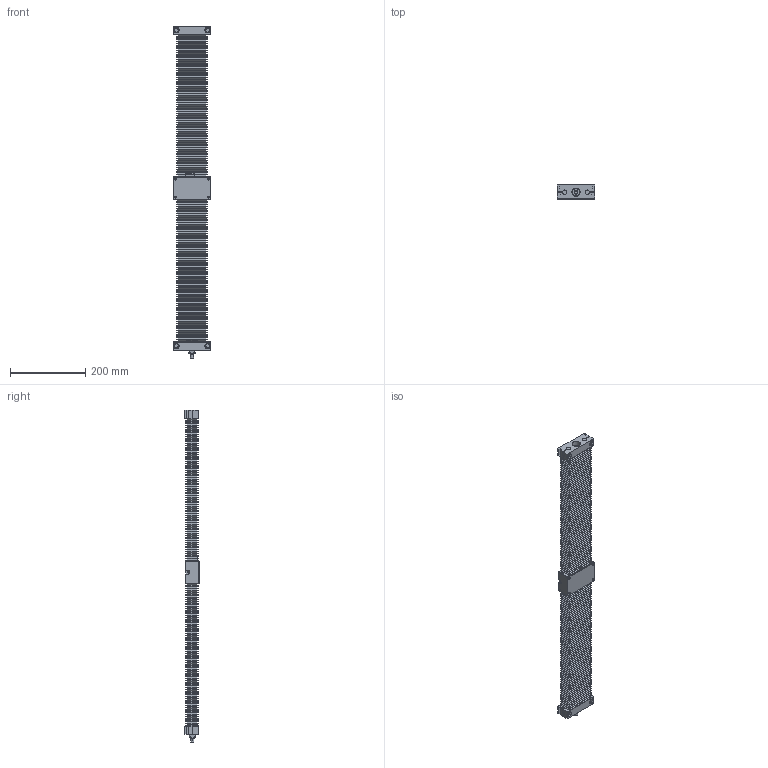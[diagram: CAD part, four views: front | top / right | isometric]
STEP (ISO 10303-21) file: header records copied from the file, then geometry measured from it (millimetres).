
FILE_DESCRIPTION (( 'STEP AP214' ), '1' );
FILE_NAME ('TKC1204B-500H0C-Ä£×é.step', '2025-10-10T09:44:56', ( '' ), ( '' ), 'SwSTEP 2.0', 'SolidWorks 2024', '' );
FILE_SCHEMA (( 'AUTOMOTIVE_DESIGN' ));
Length unit declared in the file: millimetre
Products named in the file (4): TKC1204B-500H0C-模组; TKC12-500-01; TKC12-02; TKC12-500-03
Assembly tree (4 placements, depth 2):
  TKC1204B-500H0C-模组
    TKC12-02
    TKC12-500-01
    TKC12-500-03  x2
Bounding box: 100 x 38 x 884.5 mm (x, y, z)
Volume: 1462026.5 mm3; surface area: 668145.9 mm2
Topology: 14 solids, 14 shells, 2357 faces, 5186 edges, 2905 vertices
Faces by surface type: plane 1813, cylinder 459, cone 46, torus 28, bspline 11
Entity records: 54864 total; most frequent: CARTESIAN_POINT 20314, ORIENTED_EDGE 7148, DIRECTION 6725, EDGE_CURVE 3574, VECTOR 2535, LINE 2535, VERTEX_POINT 2101, AXIS2_PLACEMENT_3D 2095
